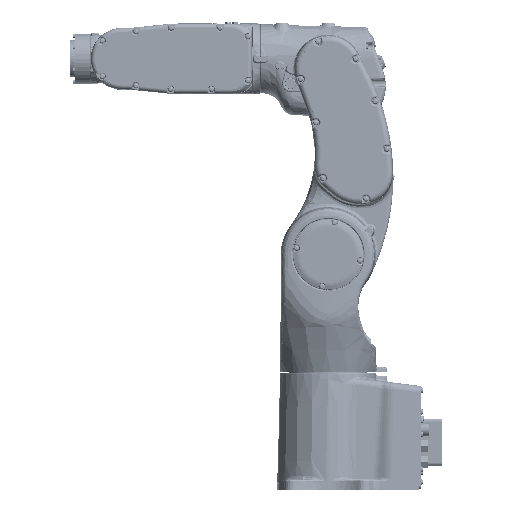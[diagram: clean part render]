
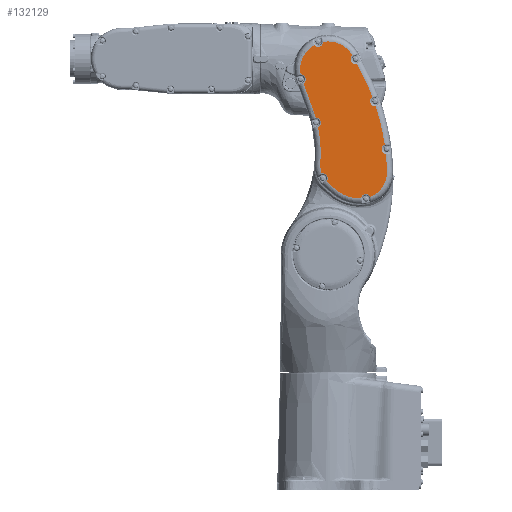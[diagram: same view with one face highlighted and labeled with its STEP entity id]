
A CAD part, top view. The second image highlights one B-rep face of the part: STEP entity #132129.
In plain terms, the highlighted planar face has unit normal (0, 0, 1).
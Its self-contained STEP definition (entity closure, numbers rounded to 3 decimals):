
#95054=CARTESIAN_POINT('',(-6.957,628.539,
94.));
#95113=CARTESIAN_POINT('',(-14.023,628.527,
94.));
#95114=DIRECTION('',(0.,0.,-1.));
#95115=DIRECTION('',(1.,0.002,0.));
#95116=AXIS2_PLACEMENT_3D('',#95113,#95114,#95115);
#95118=CARTESIAN_POINT('',(0.,590.,94.));
#95119=DIRECTION('',(0.,0.,1.));
#95120=DIRECTION('',(0.868,0.496,0.));
#95121=AXIS2_PLACEMENT_3D('',#95118,#95119,#95120);
#95123=CARTESIAN_POINT('',(38.527,604.023,94.));
#95124=DIRECTION('',(0.,0.,-1.));
#95125=DIRECTION('',(0.28,-0.96,0.));
#95126=AXIS2_PLACEMENT_3D('',#95123,#95124,#95125);
#95128=DIRECTION('',(-0.469,0.883,0.));
#95129=VECTOR('',#95128,11.515);
#95130=CARTESIAN_POINT('',(45.91,587.072,94.));
#95131=LINE('',#95130,#95129);
#95132=CARTESIAN_POINT('',(-230.595,440.052,
94.));
#95133=DIRECTION('',(0.,0.,1.));
#95134=DIRECTION('',(0.935,0.354,0.));
#95135=AXIS2_PLACEMENT_3D('',#95132,#95133,#95134);
#95137=CARTESIAN_POINT('',(66.,545.,94.));
#95138=DIRECTION('',(0.,0.,-1.));
#95139=DIRECTION('',(0.122,-0.993,0.));
#95140=AXIS2_PLACEMENT_3D('',#95137,#95138,#95139);
#95142=CARTESIAN_POINT('',(-230.595,440.052,
94.));
#95143=DIRECTION('',(0.,0.,1.));
#95144=DIRECTION('',(0.99,0.142,0.));
#95145=AXIS2_PLACEMENT_3D('',#95142,#95143,#95144);
#95147=CARTESIAN_POINT('',(82.,478.,94.));
#95148=DIRECTION('',(0.,0.,-1.));
#95149=DIRECTION('',(-0.137,-0.991,0.));
#95150=AXIS2_PLACEMENT_3D('',#95147,#95148,#95149);
#95152=CARTESIAN_POINT('',(-230.595,440.052,
94.));
#95153=DIRECTION('',(0.,0.,1.));
#95154=DIRECTION('',(1.,0.018,0.));
#95155=AXIS2_PLACEMENT_3D('',#95152,#95153,#95154);
#95157=CARTESIAN_POINT('',(46.361,445.,94.));
#95158=DIRECTION('',(0.,0.,1.));
#95159=DIRECTION('',(0.357,-0.934,0.));
#95160=AXIS2_PLACEMENT_3D('',#95157,#95158,#95159);
#95162=CARTESIAN_POINT('',(53.,408.,94.));
#95163=DIRECTION('',(0.,0.,-1.));
#95164=DIRECTION('',(-0.993,0.119,0.));
#95165=AXIS2_PLACEMENT_3D('',#95162,#95163,#95164);
#95167=DIRECTION('',(1.,0.,0.));
#95168=VECTOR('',#95167,1.068);
#95169=CARTESIAN_POINT('',(44.916,408.841,94.));
#95170=LINE('',#95169,#95168);
#95171=CARTESIAN_POINT('',(44.916,461.841,94.));
#95172=DIRECTION('',(0.,0.,1.));
#95173=DIRECTION('',(-0.669,-0.743,0.));
#95174=AXIS2_PLACEMENT_3D('',#95171,#95172,#95173);
#95176=DIRECTION('',(0.743,-0.669,0.));
#95177=VECTOR('',#95176,13.251);
#95178=CARTESIAN_POINT('',(-0.396,431.321,
94.));
#95179=LINE('',#95178,#95177);
#95180=CARTESIAN_POINT('',(21.016,455.102,94.));
#95181=DIRECTION('',(0.,0.,1.));
#95182=DIRECTION('',(-0.715,-0.699,0.));
#95183=AXIS2_PLACEMENT_3D('',#95180,#95181,#95182);
#95185=CARTESIAN_POINT('',(-7.5,437.,94.));
#95186=DIRECTION('',(0.,0.,-1.));
#95187=DIRECTION('',(-0.207,0.978,0.));
#95188=AXIS2_PLACEMENT_3D('',#95185,#95186,#95187);
#95190=CARTESIAN_POINT('',(21.016,455.102,94.));
#95191=DIRECTION('',(0.,0.,1.));
#95192=DIRECTION('',(-0.997,0.081,0.));
#95193=AXIS2_PLACEMENT_3D('',#95190,#95191,#95192);
#95195=CARTESIAN_POINT('',(-189.125,472.227,
94.));
#95196=DIRECTION('',(0.,0.,-1.));
#95197=DIRECTION('',(0.979,0.203,0.));
#95198=AXIS2_PLACEMENT_3D('',#95195,#95196,#95197);
#95200=CARTESIAN_POINT('',(-17.,515.,94.));
#95201=DIRECTION('',(0.,0.,-1.));
#95202=DIRECTION('',(-0.052,0.999,0.));
#95203=AXIS2_PLACEMENT_3D('',#95200,#95201,#95202);
#95205=CARTESIAN_POINT('',(-189.125,472.227,
94.));
#95206=DIRECTION('',(0.,0.,-1.));
#95207=DIRECTION('',(0.94,0.342,0.));
#95208=AXIS2_PLACEMENT_3D('',#95205,#95206,#95207);
#95210=DIRECTION('',(0.342,-0.94,0.));
#95211=VECTOR('',#95210,39.163);
#95212=CARTESIAN_POINT('',(-34.467,570.194,
94.));
#95213=LINE('',#95212,#95211);
#95214=CARTESIAN_POINT('',(-38.527,575.977,
94.));
#95215=DIRECTION('',(0.,0.,-1.));
#95216=DIRECTION('',(-0.002,1.,0.));
#95217=AXIS2_PLACEMENT_3D('',#95214,#95215,#95216);
#95219=CARTESIAN_POINT('',(0.,590.,94.));
#95220=DIRECTION('',(0.,0.,1.));
#95221=DIRECTION('',(-0.496,0.868,0.));
#95222=AXIS2_PLACEMENT_3D('',#95219,#95220,#95221);
#95319=CARTESIAN_POINT('',(66.859,537.986,94.));
#95389=CARTESIAN_POINT('',(81.034,471.,94.));
#99827=CARTESIAN_POINT('',(-0.396,431.321,
94.));
#99828=CARTESIAN_POINT('',(9.452,422.455,94.));
#99829=VERTEX_POINT('',#99827);
#99830=VERTEX_POINT('',#99828);
#99843=CARTESIAN_POINT('',(45.91,587.072,94.));
#99844=VERTEX_POINT('',#99843);
#99845=CARTESIAN_POINT('',(82.517,445.646,94.));
#99846=VERTEX_POINT('',#99845);
#99923=VERTEX_POINT('',#95054);
#99925=CARTESIAN_POINT('',(-19.443,623.994,
94.));
#99926=VERTEX_POINT('',#99925);
#99931=CARTESIAN_POINT('',(-38.539,583.043,
94.));
#99932=CARTESIAN_POINT('',(-34.467,570.194,
94.));
#99933=VERTEX_POINT('',#99931);
#99934=VERTEX_POINT('',#99932);
#99957=CARTESIAN_POINT('',(-17.369,522.057,
94.));
#99958=CARTESIAN_POINT('',(-14.023,508.592,
94.));
#99959=VERTEX_POINT('',#99957);
#99960=VERTEX_POINT('',#99958);
#99979=CARTESIAN_POINT('',(-8.964,443.913,
94.));
#99980=CARTESIAN_POINT('',(-1.867,432.734,
94.));
#99981=VERTEX_POINT('',#99979);
#99982=VERTEX_POINT('',#99980);
#99999=CARTESIAN_POINT('',(45.984,408.841,94.));
#100000=CARTESIAN_POINT('',(59.286,411.227,
94.));
#100001=VERTEX_POINT('',#99999);
#100002=VERTEX_POINT('',#100000);
#100021=VERTEX_POINT('',#95389);
#100023=CARTESIAN_POINT('',(79.387,484.565,
94.));
#100024=VERTEX_POINT('',#100023);
#100039=VERTEX_POINT('',#95319);
#100041=CARTESIAN_POINT('',(62.257,550.993,
94.));
#100042=VERTEX_POINT('',#100041);
#100059=CARTESIAN_POINT('',(40.505,597.239,
94.));
#100060=CARTESIAN_POINT('',(33.994,609.443,
94.));
#100061=VERTEX_POINT('',#100059);
#100062=VERTEX_POINT('',#100060);
#100067=CARTESIAN_POINT('',(-21.072,533.393,
94.));
#100068=VERTEX_POINT('',#100067);
#100069=CARTESIAN_POINT('',(-10.878,457.701,
94.));
#100070=VERTEX_POINT('',#100069);
#100094=CARTESIAN_POINT('',(44.916,408.841,
94.));
#100095=VERTEX_POINT('',#100094);
#132080=CARTESIAN_POINT('',(0.,590.,94.));
#132081=DIRECTION('',(0.,0.,1.));
#132082=DIRECTION('',(1.,0.,0.));
#132083=AXIS2_PLACEMENT_3D('',#132080,#132081,#132082);
#132084=PLANE('',#132083);
#132085=ORIENTED_EDGE('',*,*,#132070,.F.);
#132086=ORIENTED_EDGE('',*,*,#131813,.F.);
#132088=ORIENTED_EDGE('',*,*,#132087,.F.);
#132090=ORIENTED_EDGE('',*,*,#132089,.F.);
#132092=ORIENTED_EDGE('',*,*,#132091,.F.);
#132094=ORIENTED_EDGE('',*,*,#132093,.F.);
#132096=ORIENTED_EDGE('',*,*,#132095,.F.);
#132098=ORIENTED_EDGE('',*,*,#132097,.F.);
#132100=ORIENTED_EDGE('',*,*,#132099,.F.);
#132102=ORIENTED_EDGE('',*,*,#132101,.F.);
#132104=ORIENTED_EDGE('',*,*,#132103,.F.);
#132106=ORIENTED_EDGE('',*,*,#132105,.F.);
#132108=ORIENTED_EDGE('',*,*,#132107,.F.);
#132110=ORIENTED_EDGE('',*,*,#132109,.F.);
#132112=ORIENTED_EDGE('',*,*,#132111,.F.);
#132114=ORIENTED_EDGE('',*,*,#132113,.F.);
#132116=ORIENTED_EDGE('',*,*,#132115,.F.);
#132118=ORIENTED_EDGE('',*,*,#132117,.F.);
#132120=ORIENTED_EDGE('',*,*,#132119,.F.);
#132122=ORIENTED_EDGE('',*,*,#132121,.F.);
#132123=ORIENTED_EDGE('',*,*,#131571,.F.);
#132125=ORIENTED_EDGE('',*,*,#132124,.F.);
#132126=ORIENTED_EDGE('',*,*,#131794,.F.);
#132127=EDGE_LOOP('',(#132085,#132086,#132088,#132090,#132092,#132094,#132096,
#132098,#132100,#132102,#132104,#132106,#132108,#132110,#132112,#132114,#132116,
#132118,#132120,#132122,#132123,#132125,#132126));
#132128=FACE_OUTER_BOUND('',#132127,.F.);
#132129=ADVANCED_FACE('',(#132128),#132084,.T.);
#95117=CIRCLE('',#95116,7.066);
#95122=CIRCLE('',#95121,39.162);
#95127=CIRCLE('',#95126,7.066);
#95136=CIRCLE('',#95135,313.162);
#95141=CIRCLE('',#95140,7.066);
#95146=CIRCLE('',#95145,313.162);
#95151=CIRCLE('',#95150,7.066);
#95156=CIRCLE('',#95155,313.162);
#95161=CIRCLE('',#95160,36.162);
#95166=CIRCLE('',#95165,7.066);
#95175=CIRCLE('',#95174,53.);
#95184=CIRCLE('',#95183,32.);
#95189=CIRCLE('',#95188,7.066);
#95194=CIRCLE('',#95193,32.);
#95199=CIRCLE('',#95198,178.838);
#95204=CIRCLE('',#95203,7.066);
#95209=CIRCLE('',#95208,178.838);
#95218=CIRCLE('',#95217,7.066);
#95223=CIRCLE('',#95222,39.162);
#131571=EDGE_CURVE('',#99934,#100068,#95213,.T.);
#131794=EDGE_CURVE('',#99926,#99933,#95223,.T.);
#131813=EDGE_CURVE('',#100062,#99923,#95122,.T.);
#132070=EDGE_CURVE('',#99923,#99926,#95117,.T.);
#132087=EDGE_CURVE('',#100061,#100062,#95127,.T.);
#132089=EDGE_CURVE('',#99844,#100061,#95131,.T.);
#132091=EDGE_CURVE('',#100042,#99844,#95136,.T.);
#132093=EDGE_CURVE('',#100039,#100042,#95141,.T.);
#132095=EDGE_CURVE('',#100024,#100039,#95146,.T.);
#132097=EDGE_CURVE('',#100021,#100024,#95151,.T.);
#132099=EDGE_CURVE('',#99846,#100021,#95156,.T.);
#132101=EDGE_CURVE('',#100002,#99846,#95161,.T.);
#132103=EDGE_CURVE('',#100001,#100002,#95166,.T.);
#132105=EDGE_CURVE('',#100095,#100001,#95170,.T.);
#132107=EDGE_CURVE('',#99830,#100095,#95175,.T.);
#132109=EDGE_CURVE('',#99829,#99830,#95179,.T.);
#132111=EDGE_CURVE('',#99982,#99829,#95184,.T.);
#132113=EDGE_CURVE('',#99981,#99982,#95189,.T.);
#132115=EDGE_CURVE('',#100070,#99981,#95194,.T.);
#132117=EDGE_CURVE('',#99960,#100070,#95199,.T.);
#132119=EDGE_CURVE('',#99959,#99960,#95204,.T.);
#132121=EDGE_CURVE('',#100068,#99959,#95209,.T.);
#132124=EDGE_CURVE('',#99933,#99934,#95218,.T.);
